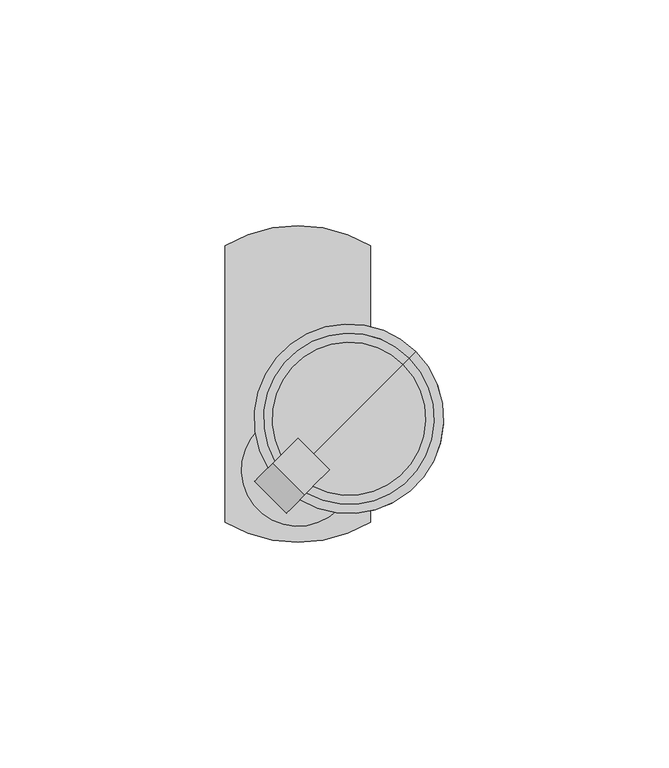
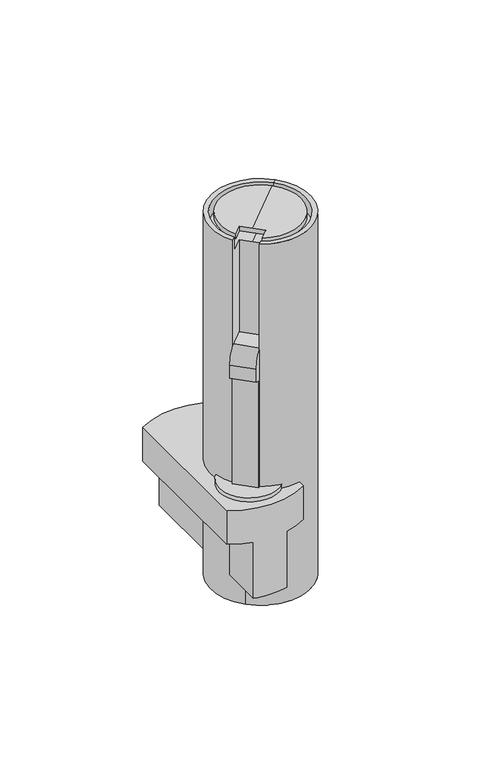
"""IFC4 building model written with IfcOpenShell, lengths in millimetres: light fixture geometry, PIPES T XS : 490lm 7,8W 930 38°."""

from ifc_helpers import new_model, si_unit, point, frame, frame_2d, origin, origin_2d, place, context, project, spatial, polyline, circle_curve, trimmed, segment, composite_curve, outline, extrude, source, transform, mapped, element, save
from ifc_brep_helpers import plane_surface, cylinder_surface, revolved_surface, advanced_brep


def light_fixture_e13ffc83(model_context):
    return source(origin(), model_context, "Body", "SolidModel", [
        extrude(outline(composite_curve([segment(polyline([(39.7303383, 0.0), (39.7303383, -7.9999999), (36.7303383, -7.9999999), (36.7303383, -10.0), (-21.31827, -10.0), (-21.31827, -2.0000001)]), True, "CONTINUOUS"), segment(trimmed(circle_curve(frame_2d((-15.691322, -2.0000001)), 5.626948), [point((-21.31827, -2.0000001))], [point((-15.691322, 3.626948))], False, "CARTESIAN"), True, "CONTINUOUS"), segment(polyline([(-15.691322, 3.626948), (-9.8735653, 3.626948)]), True, "CONTINUOUS"), segment(trimmed(circle_curve(frame_2d((-17.7182036, -2.2388678)), 9.7952104), [point((-9.8735653, 3.626948))], [point((-8.1822916, 0.0))], False, "CARTESIAN"), True, "CONTINUOUS"), segment(polyline([(-8.1822916, 0.0), (39.7303383, 0.0)]), True, "CONTINUOUS")], self_intersect=False)), frame((0.0, -7.0710678, 56.5303383), z_axis=(-0.707106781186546, 0.7071067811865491, 0.0), x_axis=(0.0, 0.0, -1.0)), (0.0, 0.0, 1.0), 10.0),
        extrude(outline(composite_curve([segment(trimmed(circle_curve(origin_2d(), 12.5), [point((-8.8388348, 8.8388348))], [point((8.8388348, -8.8388348))], False, "CARTESIAN"), True, "CONTINUOUS"), segment(trimmed(circle_curve(origin_2d(), 12.5), [point((8.8388348, -8.8388348))], [point((-8.8388348, 8.8388348))], False, "CARTESIAN"), True, "CONTINUOUS")], self_intersect=False)), frame((0.0, 0.0, 15.0), z_axis=(0.0, 0.0, 1.0), x_axis=(1.0, 0.0, 0.0)), (0.0, 0.0, 1.0), 1.8),
        advanced_brep(
        [(-7.1153658, -15.2862846, -25.0), (-7.1153658, 53.3498174, -25.0), (7.1153658, 53.3498174, -25.0), (7.1153658, -15.2862846, -25.0), (-16.1153658, 49.7317664, 15.0), (-16.1153658, -11.6682336, 15.0), (16.1153658, -11.6682336, 15.0), (16.1153658, 49.7317664, 15.0), (-16.1153658, 49.7317664, 0.0), (-16.1153658, -11.6682336, 0.0), (-7.1153658, -15.2862846, 0.0), (7.1153658, -15.2862846, 0.0), (16.1153658, -11.6682336, 0.0), (16.1153658, 49.7317664, 0.0), (7.1153658, 53.3498174, 0.0), (-7.1153658, 53.3498174, 0.0)],
        [
            (0, 1),
            (1, 2, circle_curve(frame((0.0, 22.6472542, -25.0), z_axis=(0.0, 0.0, -1.0), x_axis=(1.0, 0.0, 0.0)), 31.5162786)),
            (2, 3),
            (3, 0, circle_curve(frame((0.0, 15.4162786, -25.0), z_axis=(0.0, 0.0, -1.0), x_axis=(1.0, 0.0, 0.0)), 31.5162786)),
            (4, 5),
            (5, 6, circle_curve(frame((0.0, 15.4162786, 15.0), z_axis=(0.0, 0.0, 1.0), x_axis=(1.0, 0.0, 0.0)), 31.5162786)),
            (6, 7),
            (7, 4, circle_curve(frame((0.0, 22.6472542, 15.0), z_axis=(0.0, 0.0, 1.0), x_axis=(1.0, 0.0, 0.0)), 31.5162786)),
            (4, 8),
            (8, 9),
            (9, 5),
            (9, 10, circle_curve(frame((0.0, 15.4162786, 0.0), z_axis=(0.0, 0.0, 1.0), x_axis=(1.0, 0.0, 0.0)), 31.5162786)),
            (10, 0),
            (3, 11),
            (11, 12, circle_curve(frame((0.0, 15.4162786, 0.0), z_axis=(0.0, 0.0, 1.0), x_axis=(1.0, 0.0, 0.0)), 31.5162786)),
            (12, 6),
            (12, 13),
            (13, 7),
            (13, 14, circle_curve(frame((0.0, 22.6472542, 0.0), z_axis=(0.0, 0.0, 1.0), x_axis=(1.0, 0.0, 0.0)), 31.5162786)),
            (14, 2),
            (1, 15),
            (15, 8, circle_curve(frame((0.0, 22.6472542, 0.0), z_axis=(0.0, 0.0, 1.0), x_axis=(1.0, 0.0, 0.0)), 31.5162786)),
            (15, 10),
            (11, 14),
        ],
        [
            plane_surface(frame((-16.1153658, -11.6883244, -25.0), z_axis=(0.0, 0.0, -1.0), x_axis=(0.0, 1.0, 0.0))),
            plane_surface(frame((-16.1153658, -11.6883244, 15.0), z_axis=(0.0, 0.0, 1.0), x_axis=(0.0, -1.0, 0.0))),
            plane_surface(frame((-16.1153658, 49.7317664, 15.0), z_axis=(-1.0, 0.0, 0.0), x_axis=(0.0, 0.0, -1.0))),
            cylinder_surface(frame((0.0, 15.4162786, -25.0), z_axis=(0.0, 0.0, 1.0), x_axis=(1.0, 0.0, 0.0)), 31.5162786),
            plane_surface(frame((16.1153658, -11.6682336, 15.0), z_axis=(1.0, 0.0, 0.0), x_axis=(0.0, 0.0, -1.0))),
            cylinder_surface(frame((0.0, 22.6472542, -25.0), z_axis=(0.0, 0.0, 1.0), x_axis=(1.0, 0.0, 0.0)), 31.5162786),
            plane_surface(frame((-7.1153658, 58.6979838, 0.0), z_axis=(0.0, 0.0, -1.0), x_axis=(-1.0, 0.0, 0.0))),
            plane_surface(frame((-7.1153658, -21.3020162, 0.0), z_axis=(-1.0, 0.0, 0.0), x_axis=(0.0, 0.0, -1.0))),
            plane_surface(frame((7.1153658, -11.6883244, 0.0), z_axis=(0.0, 0.0, -1.0), x_axis=(0.0, -1.0, 0.0))),
            plane_surface(frame((7.1153658, 58.6979838, 0.0), z_axis=(1.0, 0.0, 0.0), x_axis=(0.0, 0.0, -1.0))),
        ],
        [
            (0, [[1, 2, 3, 4]]),
            (1, [[5, 6, 7, 8]]),
            (2, [[-5, 9, 10, 11]]),
            (3, [[-6, -11, 12, 13, -4, 14, 15, 16]]),
            (4, [[-7, -16, 17, 18]]),
            (5, [[-8, -18, 19, 20, -2, 21, 22, -9]]),
            (6, [[23, -12, -10, -22]]),
            (7, [[-23, -21, -1, -13]]),
            (8, [[24, -19, -17, -15]]),
            (9, [[-24, -14, -3, -20]]),
        ],
    ),
        advanced_brep(
        [(0.0, 7.0710678, 68.0), (0.0, 7.0710678, 119.0), (-5.1833068, 1.887761, 119.0), (-5.1833068, 1.887761, 125.0), (-6.6440305, 0.4270373, 125.0), (-6.6440305, 0.4270373, 68.0), (7.0710678, 0.0, 68.0), (0.4270373, -6.6440305, 68.0), (0.4270373, -6.6440305, 125.0), (1.887761, -5.1833068, 125.0), (1.887761, -5.1833068, 119.0), (7.0710678, 0.0, 119.0), (3.5355339, 3.5355339, 119.0), (-3.5355339, -3.5355339, 68.0), (-3.5355339, -3.5355339, -36.0), (26.1629509, 26.1629509, -36.0), (26.1629509, 26.1629509, 125.0), (24.7487373, 24.7487373, 125.0), (24.7487373, 24.7487373, 119.0), (11.3137085, 11.3137085, 119.0), (18.3847763, 18.3847763, -17.5), (4.2426407, 4.2426407, -17.5), (11.3137085, 11.3137085, -17.5)],
        [
            (0, 1),
            (1, 2),
            (2, 3),
            (3, 4),
            (4, 5),
            (5, 0),
            (6, 7),
            (7, 8),
            (8, 9),
            (9, 10),
            (10, 11),
            (11, 6),
            (0, 6),
            (11, 12),
            (12, 1),
            (5, 13, circle_curve(frame((11.3137085, 11.3137085, 68.0), z_axis=(0.0, 0.0, 1.0), x_axis=(-0.7071067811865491, -0.707106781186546, 0.0)), 21.0)),
            (13, 7, circle_curve(frame((11.3137085, 11.3137085, 68.0), z_axis=(0.0, 0.0, 1.0), x_axis=(-0.7071067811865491, -0.707106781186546, 0.0)), 21.0)),
            (14, 15, circle_curve(frame((11.3137085, 11.3137085, -36.0), z_axis=(0.0, 0.0, 1.0), x_axis=(-0.7071067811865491, -0.707106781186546, 0.0)), 21.0)),
            (15, 16),
            (16, 8, circle_curve(frame((11.3137085, 11.3137085, 125.0), z_axis=(0.0, 0.0, -1.0), x_axis=(-0.7071067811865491, -0.707106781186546, 0.0)), 21.0)),
            (13, 14),
            (15, 14, circle_curve(frame((11.3137085, 11.3137085, -36.0), z_axis=(0.0, 0.0, 1.0), x_axis=(-0.7071067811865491, -0.707106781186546, 0.0)), 21.0)),
            (4, 16, circle_curve(frame((11.3137085, 11.3137085, 125.0), z_axis=(0.0, 0.0, -1.0), x_axis=(-0.7071067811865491, -0.707106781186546, 0.0)), 21.0)),
            (16, 17),
            (17, 9, circle_curve(frame((11.3137085, 11.3137085, 125.0), z_axis=(0.0, 0.0, -1.0), x_axis=(-0.7071067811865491, -0.707106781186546, 0.0)), 19.0)),
            (3, 17, circle_curve(frame((11.3137085, 11.3137085, 125.0), z_axis=(0.0, 0.0, -1.0), x_axis=(-0.7071067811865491, -0.707106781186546, 0.0)), 19.0)),
            (17, 18),
            (18, 10, circle_curve(frame((11.3137085, 11.3137085, 119.0), z_axis=(0.0, 0.0, -1.0), x_axis=(-0.7071067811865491, -0.707106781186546, 0.0)), 19.0)),
            (2, 18, circle_curve(frame((11.3137085, 11.3137085, 119.0), z_axis=(0.0, 0.0, -1.0), x_axis=(-0.7071067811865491, -0.707106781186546, 0.0)), 19.0)),
            (18, 19),
            (19, 12),
            (20, 21, circle_curve(frame((11.3137085, 11.3137085, -17.5), z_axis=(0.0, 0.0, -1.0), x_axis=(-0.7071067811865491, -0.707106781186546, 0.0)), 10.0)),
            (21, 22),
            (22, 20),
            (21, 20, circle_curve(frame((11.3137085, 11.3137085, -17.5), z_axis=(0.0, 0.0, -1.0), x_axis=(-0.7071067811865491, -0.707106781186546, 0.0)), 10.0)),
            (14, 21),
            (20, 15),
        ],
        [
            plane_surface(frame((0.0, 7.0710678, 68.0), z_axis=(0.707106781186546, -0.7071067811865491, 0.0), x_axis=(0.0, 0.0, -1.0))),
            plane_surface(frame((7.0710678, 0.0, 68.0), z_axis=(-0.707106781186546, 0.7071067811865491, 0.0), x_axis=(0.0, 0.0, 1.0))),
            plane_surface(frame((7.0710678, 0.0, 68.0), z_axis=(-0.7071067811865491, -0.707106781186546, 0.0), x_axis=(-0.707106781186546, 0.7071067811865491, 0.0))),
            plane_surface(frame((-7.0710678, -14.1421356, 68.0), z_axis=(0.0, 0.0, 1.0), x_axis=(-0.707106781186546, 0.7071067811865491, 0.0))),
            cylinder_surface(frame((11.3137085, 11.3137085, 133.452381), z_axis=(0.0, 0.0, 1.0), x_axis=(-0.7071067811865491, -0.707106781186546, 0.0)), 21.0),
            plane_surface(frame((11.3137085, 11.3137085, 125.0), z_axis=(0.0, 0.0, 1.0), x_axis=(-0.7071067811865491, -0.707106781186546, 0.0))),
            revolved_surface(polyline([(-2.1213203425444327, -2.121320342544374, 125.0), (-2.1213203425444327, -2.121320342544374, 119.0)]), (11.3137085, 11.3137085, 133.452381), (0.0, 0.0, 1.0)),
            plane_surface(frame((11.3137085, 11.3137085, 119.0), z_axis=(0.0, 0.0, 1.0), x_axis=(-0.7071067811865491, -0.707106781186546, 0.0))),
            plane_surface(frame((11.3137085, 11.3137085, -17.5), z_axis=(0.0, 0.0, -1.0), x_axis=(-0.7071067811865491, -0.707106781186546, 0.0))),
            revolved_surface(polyline([(4.2426407, 4.2426407, -17.5), (-3.5355339, -3.5355339, -36.0)]), (11.3137085, 11.3137085, 133.452381), (0.0, 0.0, 1.0)),
        ],
        [
            (0, [[1, 2, 3, 4, 5, 6]]),
            (1, [[7, 8, 9, 10, 11, 12]]),
            (2, [[13, -12, 14, 15, -1]]),
            (3, [[-13, -6, 16, 17, -7]]),
            (4, [[18, 19, 20, -8, -17, 21]]),
            (4, [[-19, 22, -21, -16, -5, 23]]),
            (5, [[24, 25, -9, -20]]),
            (5, [[-24, -23, -4, 26]]),
            (6, [[27, 28, -10, -25]]),
            (6, [[-27, -26, -3, 29]]),
            (7, [[30, 31, -14, -11, -28]]),
            (7, [[-30, -29, -2, -15, -31]]),
            (8, [[32, 33, 34]]),
            (8, [[-33, 35, -34]]),
            (9, [[-18, 36, -32, 37]]),
            (9, [[-22, -37, -35, -36]]),
        ],
    ),
        advanced_brep(
        [(0.0, 7.0710678, 123.0), (0.0, 7.0710678, 125.0), (-3.7062478, 3.36482, 125.0), (-3.7062478, 3.36482, 123.0), (7.0710678, 0.0, 125.0), (7.0710678, 0.0, 123.0), (3.36482, -3.7062478, 123.0), (3.36482, -3.7062478, 125.0), (3.5355339, 3.5355339, 123.0), (3.5355339, 3.5355339, 125.0), (11.3137085, 11.3137085, 123.0), (23.330029, 23.330029, 123.0), (23.330029, 23.330029, 125.0), (11.3137085, 11.3137085, 125.0)],
        [
            (0, 1),
            (1, 2),
            (2, 3),
            (3, 0),
            (4, 5),
            (5, 6),
            (6, 7),
            (7, 4),
            (0, 8),
            (8, 5),
            (4, 9),
            (9, 1),
            (10, 11),
            (11, 6, circle_curve(frame((11.3137085, 11.3137085, 123.0), z_axis=(0.0, 0.0, -1.0), x_axis=(-0.7071067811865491, -0.707106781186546, 0.0)), 16.9936434)),
            (8, 10),
            (3, 11, circle_curve(frame((11.3137085, 11.3137085, 123.0), z_axis=(0.0, 0.0, -1.0), x_axis=(-0.7071067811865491, -0.707106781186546, 0.0)), 16.9936434)),
            (11, 12),
            (12, 7, circle_curve(frame((11.3137085, 11.3137085, 125.0), z_axis=(0.0, 0.0, -1.0), x_axis=(-0.7071067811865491, -0.707106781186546, 0.0)), 16.9936434)),
            (2, 12, circle_curve(frame((11.3137085, 11.3137085, 125.0), z_axis=(0.0, 0.0, -1.0), x_axis=(-0.7071067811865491, -0.707106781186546, 0.0)), 16.9936434)),
            (12, 13),
            (13, 9),
        ],
        [
            plane_surface(frame((0.0, 7.0710678, 68.0), z_axis=(0.707106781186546, -0.7071067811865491, 0.0), x_axis=(0.0, 0.0, -1.0))),
            plane_surface(frame((7.0710678, 0.0, 68.0), z_axis=(-0.707106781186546, 0.7071067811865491, 0.0), x_axis=(0.0, 0.0, 1.0))),
            plane_surface(frame((7.0710678, 0.0, 68.0), z_axis=(-0.7071067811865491, -0.707106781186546, 0.0), x_axis=(-0.707106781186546, 0.7071067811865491, 0.0))),
            plane_surface(frame((11.3137085, 11.3137085, 123.0), z_axis=(0.0, 0.0, -1.0), x_axis=(-0.7071067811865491, -0.707106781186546, 0.0))),
            cylinder_surface(frame((11.3137085, 11.3137085, -7.047619), z_axis=(0.0, 0.0, 1.0), x_axis=(-0.7071067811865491, -0.707106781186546, 0.0)), 16.9936434),
            plane_surface(frame((11.3137085, 11.3137085, 125.0), z_axis=(0.0, 0.0, 1.0), x_axis=(-0.7071067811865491, -0.707106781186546, 0.0))),
        ],
        [
            (0, [[1, 2, 3, 4]]),
            (1, [[5, 6, 7, 8]]),
            (2, [[-1, 9, 10, -5, 11, 12]]),
            (3, [[13, 14, -6, -10, 15]]),
            (3, [[-13, -15, -9, -4, 16]]),
            (4, [[17, 18, -7, -14]]),
            (4, [[-17, -16, -3, 19]]),
            (5, [[20, 21, -11, -8, -18]]),
            (5, [[-20, -19, -2, -12, -21]]),
        ],
    ),
        advanced_brep(
        [(17.982557, 17.982557, -18.5), (4.64486, 4.64486, -18.5), (11.3137085, 11.3137085, -18.5), (25.3402898, 25.3402898, -36.0), (-2.7128728, -2.7128728, -36.0), (26.1629509, 26.1629509, -36.0), (-3.5355339, -3.5355339, -36.0), (18.3847763, 18.3847763, -17.5), (4.2426407, 4.2426407, -17.5), (11.3137085, 11.3137085, -17.5)],
        [
            (0, 1, circle_curve(frame((11.3137085, 11.3137085, -18.5), z_axis=(0.0, 0.0, -1.0), x_axis=(-0.7071067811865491, -0.707106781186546, 0.0)), 9.431176)),
            (1, 2),
            (2, 0),
            (1, 0, circle_curve(frame((11.3137085, 11.3137085, -18.5), z_axis=(0.0, 0.0, -1.0), x_axis=(-0.7071067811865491, -0.707106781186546, 0.0)), 9.431176)),
            (3, 4, circle_curve(frame((11.3137085, 11.3137085, -36.0), z_axis=(0.0, 0.0, -1.0), x_axis=(-0.7071067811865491, -0.707106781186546, 0.0)), 19.8365814)),
            (4, 1),
            (0, 3),
            (4, 3, circle_curve(frame((11.3137085, 11.3137085, -36.0), z_axis=(0.0, 0.0, -1.0), x_axis=(-0.7071067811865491, -0.707106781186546, 0.0)), 19.8365814)),
            (5, 6, circle_curve(frame((11.3137085, 11.3137085, -36.0), z_axis=(0.0, 0.0, -1.0), x_axis=(-0.7071067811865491, -0.707106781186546, 0.0)), 21.0)),
            (6, 4),
            (3, 5),
            (6, 5, circle_curve(frame((11.3137085, 11.3137085, -36.0), z_axis=(0.0, 0.0, -1.0), x_axis=(-0.7071067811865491, -0.707106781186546, 0.0)), 21.0)),
            (7, 8, circle_curve(frame((11.3137085, 11.3137085, -17.5), z_axis=(0.0, 0.0, -1.0), x_axis=(-0.7071067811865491, -0.707106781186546, 0.0)), 10.0)),
            (8, 6),
            (5, 7),
            (8, 7, circle_curve(frame((11.3137085, 11.3137085, -17.5), z_axis=(0.0, 0.0, -1.0), x_axis=(-0.7071067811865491, -0.707106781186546, 0.0)), 10.0)),
            (9, 8),
            (7, 9),
        ],
        [
            plane_surface(frame((11.3137085, 11.3137085, -18.5), z_axis=(0.0, 0.0, -1.0), x_axis=(-0.7071067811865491, -0.707106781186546, 0.0))),
            revolved_surface(polyline([(4.64486, 4.64486, -18.5), (-2.7128728, -2.7128728, -36.0)]), (11.3137085, 11.3137085, 153.452381), (0.0, 0.0, 1.0)),
            plane_surface(frame((11.3137085, 11.3137085, -36.0), z_axis=(0.0, 0.0, -1.0), x_axis=(-0.7071067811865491, -0.707106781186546, 0.0))),
            revolved_surface(polyline([(-3.5355339, -3.5355339, -36.0), (4.2426407, 4.2426407, -17.5)]), (11.3137085, 11.3137085, 153.452381), (0.0, 0.0, 1.0)),
            plane_surface(frame((11.3137085, 11.3137085, -17.5), z_axis=(0.0, 0.0, 1.0), x_axis=(-0.7071067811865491, -0.707106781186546, 0.0))),
        ],
        [
            (0, [[1, 2, 3]]),
            (0, [[4, -3, -2]]),
            (1, [[5, 6, -1, 7]]),
            (1, [[8, -7, -4, -6]]),
            (2, [[9, 10, -5, 11]]),
            (2, [[12, -11, -8, -10]]),
            (3, [[13, 14, -9, 15]]),
            (3, [[16, -15, -12, -14]]),
            (4, [[17, -13, 18]]),
            (4, [[-18, -16, -17]]),
        ],
    ),
    ])


if __name__ == "__main__":
    model = new_model("IFC4")
    model_context = context("Model", 3, world=origin())
    ifc_project = project(units=[si_unit("LENGTHUNIT", "METRE", prefix="MILLI")], contexts=[model_context])
    site = spatial("IfcSite", under=ifc_project)
    building = spatial("IfcBuilding", under=site)
    placement = place(None, origin())
    light_fixture_shape = light_fixture_e13ffc83(model_context)
    element("IfcLightFixture", 1, ObjectType="PIPES T XS : 490lm 7,8W 930 38°", at=placement, inside=building, context=model_context, shape_type="MappedRepresentation", body=[
        mapped(light_fixture_shape, transform((0.0, 0.0, 0.0), x_axis=(1.0, 0.0, 0.0), y_axis=(0.0, 1.0, 0.0), z_axis=(0.0, 0.0, 1.0))),
    ])
    save(model, "model.ifc")
